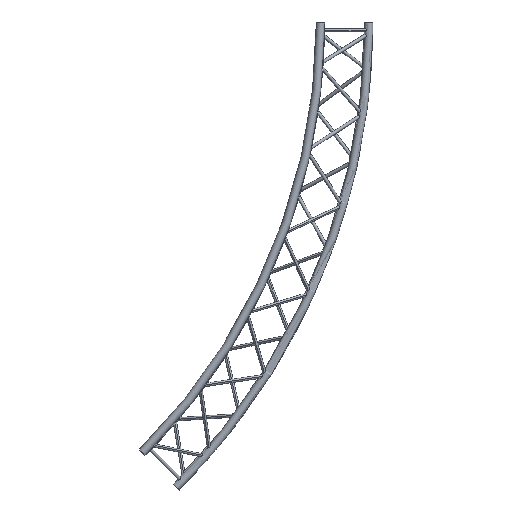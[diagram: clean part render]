
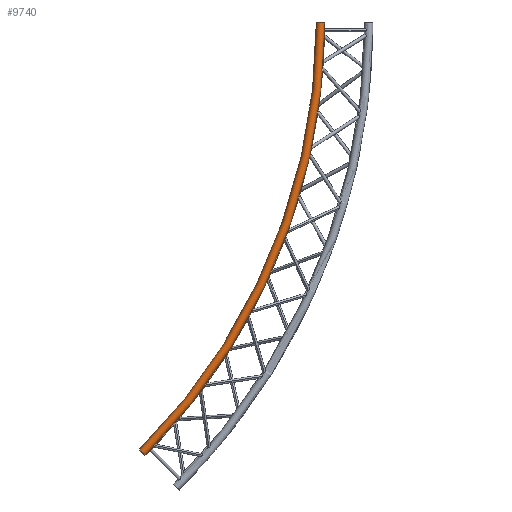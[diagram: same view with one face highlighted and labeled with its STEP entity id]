
A CAD part, front view. The second image highlights one B-rep face of the part: STEP entity #9740.
In plain terms, the highlighted toroidal (fillet/blend) face has major radius 3683.15 mm and minor radius 25 mm.
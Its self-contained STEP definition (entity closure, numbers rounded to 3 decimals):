
#5839 = DIRECTION ( 'NONE',  ( 0.707, 0., -0.707 ) ) ;
#5840 = DIRECTION ( 'NONE',  ( 0.707, 0., 0.707 ) ) ;
#5841 = CARTESIAN_POINT ( 'NONE',  ( 2604.38, -168.5, -2604.38 ) ) ;
#5842 = AXIS2_PLACEMENT_3D ( 'NONE', #5841, #5840, #5839 ) ;
#5843 = CIRCLE ( 'NONE', #5842, 25. ) ;
#5845 = DIRECTION ( 'NONE',  ( 0., 0., -1. ) ) ;
#5846 = DIRECTION ( 'NONE',  ( 0., -1., 0. ) ) ;
#5847 = CARTESIAN_POINT ( 'NONE',  ( 0., -168.5, 0. ) ) ;
#5848 = AXIS2_PLACEMENT_3D ( 'NONE', #5847, #5846, #5845 ) ;
#5849 = CIRCLE ( 'NONE', #5848, 3658.149 ) ;
#5855 = DIRECTION ( 'NONE',  ( 1., 0., 0. ) ) ;
#5856 = DIRECTION ( 'NONE',  ( 0., 0., 1. ) ) ;
#5857 = CARTESIAN_POINT ( 'NONE',  ( 3683.149, -168.5, 0. ) ) ;
#5858 = AXIS2_PLACEMENT_3D ( 'NONE', #5857, #5856, #5855 ) ;
#5859 = CIRCLE ( 'NONE', #5858, 25. ) ;
#5860 = CARTESIAN_POINT ( 'NONE',  ( 3708.149, -168.5, 0. ) ) ;
#5915 = CARTESIAN_POINT ( 'NONE',  ( 2622.058, -168.5, -2622.058 ) ) ;
#5926 = CARTESIAN_POINT ( 'NONE',  ( 2586.702, -168.5, -2586.702 ) ) ;
#5927 = DIRECTION ( 'NONE',  ( 0., 0., -1. ) ) ;
#5928 = DIRECTION ( 'NONE',  ( 0., -1., 0. ) ) ;
#5929 = AXIS2_PLACEMENT_3D ( 'NONE', #5930, #5928, #5927 ) ;
#5930 = CARTESIAN_POINT ( 'NONE',  ( 0., -168.5, 0. ) ) ;
#5931 = TOROIDAL_SURFACE ( 'NONE', #5929, 3683.149, 25. ) ;
#5936 = FACE_OUTER_BOUND ( 'NONE', #9743, .T. ) ;
#5939 = CARTESIAN_POINT ( 'NONE',  ( 3658.149, -168.5, 0. ) ) ;
#5940 = DIRECTION ( 'NONE',  ( 0., 0., -1. ) ) ;
#5941 = DIRECTION ( 'NONE',  ( 0., -1., 0. ) ) ;
#5942 = CARTESIAN_POINT ( 'NONE',  ( 0., -168.5, 0. ) ) ;
#5943 = AXIS2_PLACEMENT_3D ( 'NONE', #5942, #5941, #5940 ) ;
#5944 = CIRCLE ( 'NONE', #5943, 3708.149 ) ;
#9576 = VERTEX_POINT ( 'NONE', #5860 ) ;
#9577 = EDGE_CURVE ( 'NONE', #9736, #9576, #5859, .T. ) ;
#9579 = ORIENTED_EDGE ( 'NONE', *, *, #9584, .F. ) ;
#9584 = EDGE_CURVE ( 'NONE', #9744, #9736, #5849, .T. ) ;
#9728 = EDGE_CURVE ( 'NONE', #9744, #9733, #5843, .T. ) ;
#9733 = VERTEX_POINT ( 'NONE', #5915 ) ;
#9734 = EDGE_CURVE ( 'NONE', #9733, #9576, #5944, .T. ) ;
#9735 = ORIENTED_EDGE ( 'NONE', *, *, #9734, .T. ) ;
#9736 = VERTEX_POINT ( 'NONE', #5939 ) ;
#9737 = ORIENTED_EDGE ( 'NONE', *, *, #9577, .F. ) ;
#9740 = ADVANCED_FACE ( 'NONE', ( #5936 ), #5931, .T. ) ;
#9743 = EDGE_LOOP ( 'NONE', ( #9746, #9735, #9737, #9579 ) ) ;
#9744 = VERTEX_POINT ( 'NONE', #5926 ) ;
#9746 = ORIENTED_EDGE ( 'NONE', *, *, #9728, .T. ) ;
